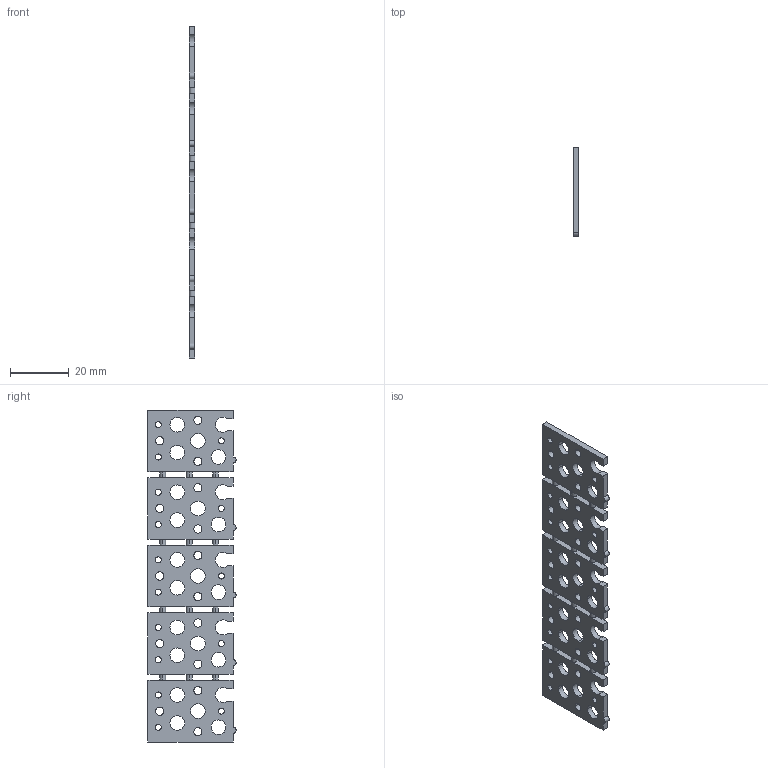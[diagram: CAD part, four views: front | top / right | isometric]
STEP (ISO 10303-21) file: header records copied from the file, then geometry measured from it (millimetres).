
FILE_DESCRIPTION(('CATIA V5 STEP Exchange'),'2;1');
FILE_NAME('G:\够快云库\系统集成开发部\1.部门成员\孙国\3D-stp打印件\1222\GZ-QM07_V1 盖板.stp','2020-12-22T07:13:10+00:00',('none'),('none'),'CATIA Version 5 Release 20 GA (IN-10)','CATIA V5 STEP AP203','none');
FILE_SCHEMA(('CONFIG_CONTROL_DESIGN'));
Length unit declared in the file: millimetre
Products named in the file (1): 盖板
Bounding box: 2 x 30 x 113 mm (x, y, z)
Volume: 4856 mm3; surface area: 7064.1 mm2
Topology: 1 solids, 1 shells, 208 faces, 570 edges, 348 vertices
Faces by surface type: cylinder 134, plane 74
Entity records: 5995 total; most frequent: ORIENTED_EDGE 1140, CARTESIAN_POINT 1006, DIRECTION 744, EDGE_CURVE 570, AXIS2_PLACEMENT_3D 356, VERTEX_POINT 348, EDGE_LOOP 308, VECTOR 302
